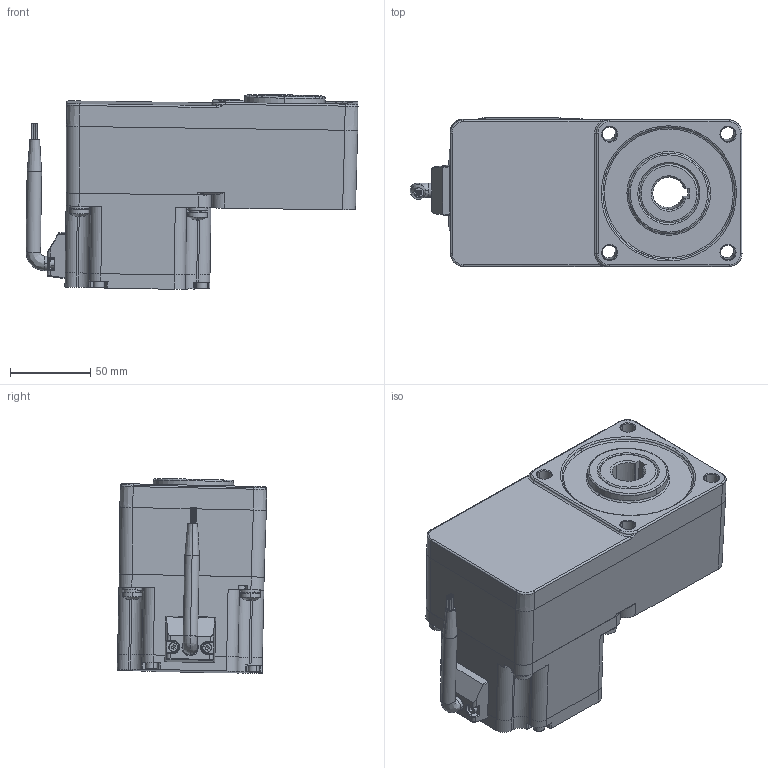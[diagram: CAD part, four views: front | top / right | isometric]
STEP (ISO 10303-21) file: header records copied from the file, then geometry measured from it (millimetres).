
FILE_DESCRIPTION (( 'STEP AP203' ), '1' );
FILE_NAME ('90LC眊极淕儂.STEP', '2018-07-10T02:13:17', ( 'admin' ), ( '' ), 'SwSTEP 2.0', 'SolidWorks 2011', '' );
FILE_SCHEMA (( 'CONFIG_CONTROL_DESIGN' ));
Products named in the file (12): 90LC眊极淕儂; wx; Plain washers--Product grade C GB_GB_FASTENER_WASHER_SMWC 6; 90萇儂蚾饜极; 堤盄殤; 竘堤盄; M3蹟隊; M4蹟隊; Z5BLD儂褲; Z5BLD綴傷裔; Spring lock washers--Normal type GB_GB_FASTENER_WASHER_SW 6; Cross recessed pan head screws GB_GB_CROSS_SCREWS_TYPE1 M6X16-16  H type-C
Assembly tree (24 placements, depth 3):
  90LC眊极淕儂
    Spring lock washers--Normal type GB_GB_FASTENER_WASHER_SW 6  x4
    Cross recessed pan head screws GB_GB_CROSS_SCREWS_TYPE1 M6X16-16  H type-C  x4
    Plain washers--Product grade C GB_GB_FASTENER_WASHER_SMWC 6  x4
    wx
    90萇儂蚾饜极
      Z5BLD綴傷裔
      竘堤盄
      Z5BLD儂褲
      M4蹟隊  x4
      堤盄殤
      M3蹟隊  x2
Bounding box: 206.29 x 92.87 x 120.9 mm (x, y, z)
Volume: 837538.6 mm3; surface area: 221635.8 mm2
Topology: 24 solids, 24 shells, 1639 faces, 3844 edges, 2305 vertices
Faces by surface type: cylinder 466, plane 456, bspline 426, cone 157, torus 93, sphere 41
Entity records: 76303 total; most frequent: CARTESIAN_POINT 46496, ORIENTED_EDGE 6732, DIRECTION 4607, EDGE_CURVE 3366, VERTEX_POINT 2010, AXIS2_PLACEMENT_3D 1786, EDGE_LOOP 1528, FACE_OUTER_BOUND 1432
